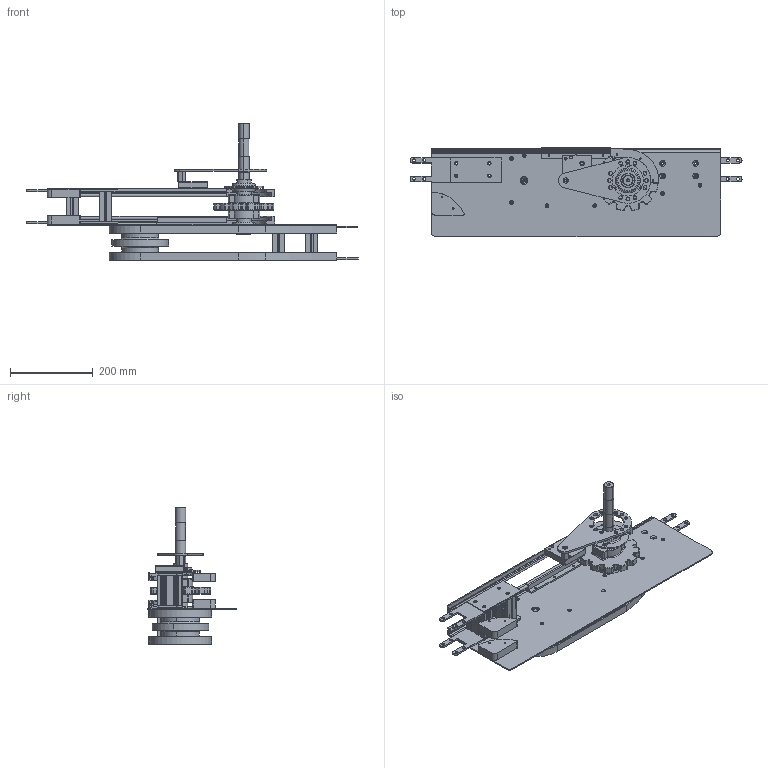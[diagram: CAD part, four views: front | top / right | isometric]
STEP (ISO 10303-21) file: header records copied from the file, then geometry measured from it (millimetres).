
FILE_DESCRIPTION (( 'STEP AP203' ), '1' );
FILE_NAME ('2000.325.763R.STEP', '2015-04-15T12:36:36', ( '' ), ( '' ), 'SwSTEP 2.0', 'SolidWorks 2012', '' );
FILE_SCHEMA (( 'CONFIG_CONTROL_DESIGN' ));
Length unit declared in the file: millimetre
Products named in the file (1): 2000.325.763R
Bounding box: 800.6 x 214.8 x 332 mm (x, y, z)
Volume: 2833105 mm3; surface area: 1202104.2 mm2
Topology: 39 solids, 39 shells, 1834 faces, 4869 edges, 3118 vertices
Faces by surface type: plane 785, cylinder 755, torus 180, cone 94, sphere 20
Entity records: 58049 total; most frequent: DIRECTION 10394, CARTESIAN_POINT 10332, ORIENTED_EDGE 9674, EDGE_CURVE 4837, AXIS2_PLACEMENT_3D 3782, VERTEX_POINT 3104, LINE 2830, VECTOR 2830
